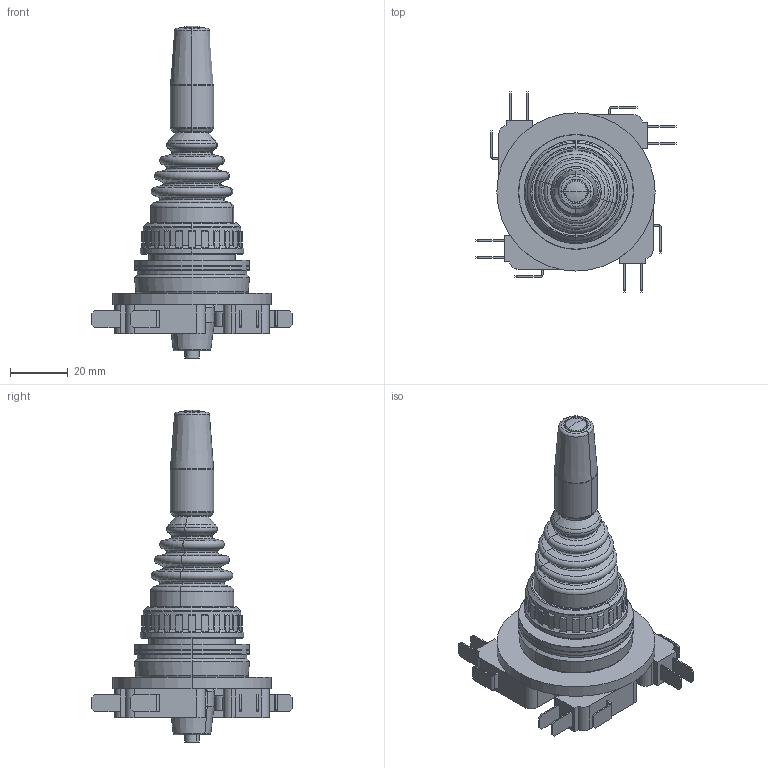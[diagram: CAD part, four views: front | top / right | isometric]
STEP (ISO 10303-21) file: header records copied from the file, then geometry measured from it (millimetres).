
FILE_DESCRIPTION (( 'STEP AP214' ), '1' );
FILE_NAME ('030M8T44.STEP', '2023-02-17T13:23:07', ( '' ), ( '' ), 'SwSTEP 2.0', 'SolidWorks 2013', '' );
FILE_SCHEMA (( 'AUTOMOTIVE_DESIGN' ));
Length unit declared in the file: millimetre
Products named in the file (1): 030M8T44
Bounding box: 69.62 x 69.62 x 115.43 mm (x, y, z)
Volume: 64049.7 mm3; surface area: 39321.8 mm2
Topology: 15 solids, 15 shells, 598 faces, 1443 edges, 901 vertices
Faces by surface type: plane 254, cylinder 139, torus 104, cone 95, sphere 6
Entity records: 24212 total; most frequent: DIRECTION 3250, CARTESIAN_POINT 2943, ORIENTED_EDGE 2886, EDGE_CURVE 1443, AXIS2_PLACEMENT_3D 1208, VERTEX_POINT 901, VECTOR 834, LINE 834
